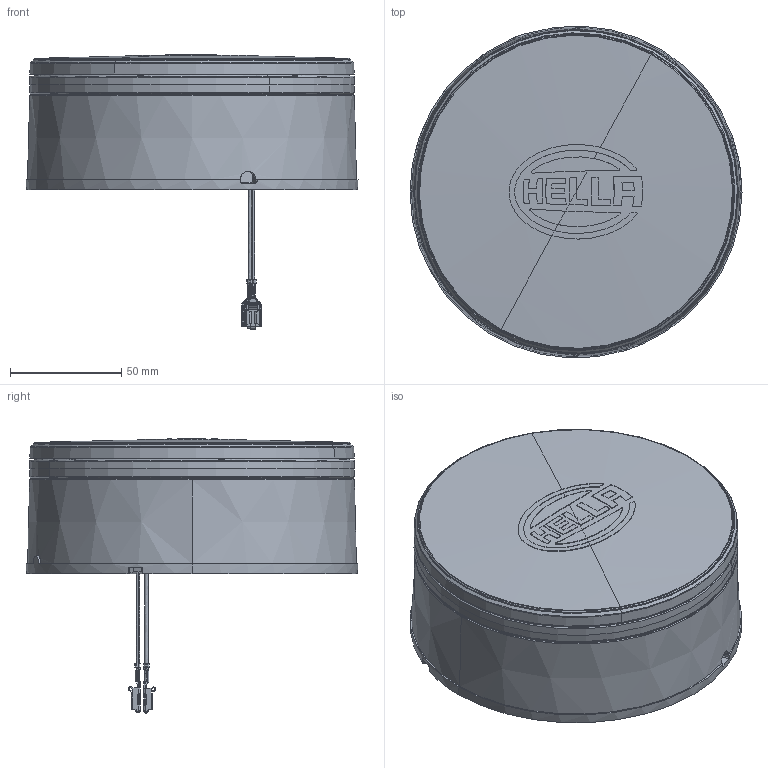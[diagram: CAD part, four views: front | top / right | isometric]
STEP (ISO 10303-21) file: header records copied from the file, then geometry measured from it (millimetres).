
FILE_DESCRIPTION(('CATIA V5 STEP Exchange','CAx-IF Rec.Pracs.--- Model Styling and Organization---1.5--- 2016-08-15','CAx-IF Rec.Pracs.---Supplemental Geometry---1.0---2011-11-01','CAx-IF Rec.Pracs.--- Composite Materials ---1.1---2010-07-15'),'2;1');
FILE_NAME('E:\tmp\ddx\2011221\HELLA_3D_data_K-LED_Rebelution_fix_455-255-00.stp','2022-01-18T07:31:23+00:00',('none'),('none'),'CATIA Version 5-6 Release 2020 SP3 HF9','CATIA V5 STEP AP214 Edition 3 v2','none');
FILE_SCHEMA(('AUTOMOTIVE_DESIGN { 1 0 10303 214 3 1 1 1 }'));
Length unit declared in the file: millimetre
Products named in the file (1): 10002634313_D10_001
Bounding box: 149.47 x 149.34 x 123.43 mm (x, y, z)
Volume: 621877.8 mm3; surface area: 144730.4 mm2
Topology: 11 solids, 13 shells, 3242 faces, 8159 edges, 4703 vertices
Faces by surface type: bspline 1025, cylinder 674, plane 645, torus 410, cone 304, sphere 174, revolution 6, extrusion 4
Entity records: 156574 total; most frequent: CARTESIAN_POINT 94203, ORIENTED_EDGE 15870, EDGE_CURVE 7935, DIRECTION 7404, VERTEX_POINT 4703, B_SPLINE_CURVE_WITH_KNOTS 4077, AXIS2_PLACEMENT_3D 3752, EDGE_LOOP 3282
